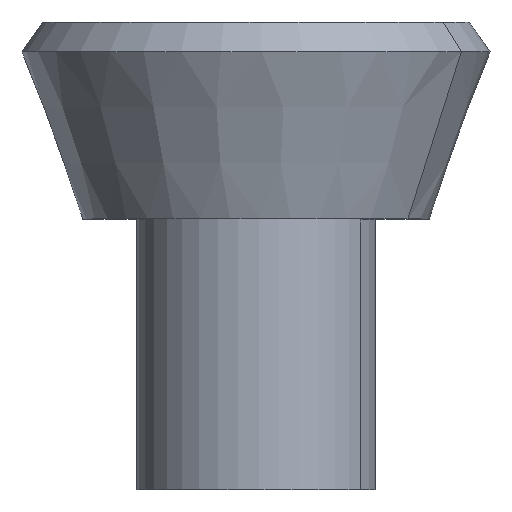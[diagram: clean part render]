
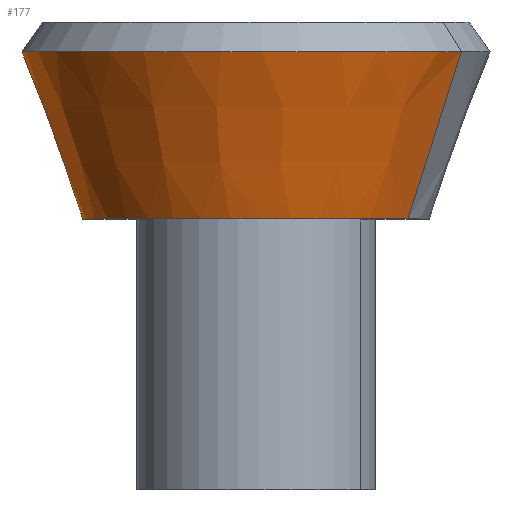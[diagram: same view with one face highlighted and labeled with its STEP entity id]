
A CAD part, top view. The second image highlights one B-rep face of the part: STEP entity #177.
In plain terms, the highlighted conical face has half-angle 20 degrees and reference radius 96 mm.
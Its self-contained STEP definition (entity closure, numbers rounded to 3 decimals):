
#114=CARTESIAN_POINT('Axis2P3D Location',(0.,0.,0.)) ;
#118=CARTESIAN_POINT('Vertex',(84.248,0.,46.025)) ;
#120=CARTESIAN_POINT('Vertex',(-84.248,0.,-46.025)) ;
#147=CARTESIAN_POINT('Axis2P3D Location',(0.,0.,0.)) ;
#152=CARTESIAN_POINT('Line Origine',(99.04,46.311,54.106)) ;
#156=CARTESIAN_POINT('Vertex',(113.832,92.621,62.187)) ;
#159=CARTESIAN_POINT('Axis2P3D Location',(0.,92.621,0.)) ;
#163=CARTESIAN_POINT('Vertex',(-113.832,92.621,-62.187)) ;
#166=CARTESIAN_POINT('Line Origine',(-99.04,46.311,-54.106)) ;
#115=DIRECTION('Axis2P3D Direction',(0.,-1.,0.)) ;
#148=DIRECTION('Axis2P3D Direction',(-0.,1.,-0.)) ;
#149=DIRECTION('Axis2P3D XDirection',(0.878,0.,0.479)) ;
#153=DIRECTION('Vector Direction',(0.3,0.94,0.164)) ;
#160=DIRECTION('Axis2P3D Direction',(0.,1.,-0.)) ;
#167=DIRECTION('Vector Direction',(-0.3,0.94,-0.164)) ;
#116=AXIS2_PLACEMENT_3D('Circle Axis2P3D',#114,#115,$) ;
#150=AXIS2_PLACEMENT_3D('Cone Axis2P3D',#147,#148,#149) ;
#161=AXIS2_PLACEMENT_3D('Circle Axis2P3D',#159,#160,$) ;
#172=ORIENTED_EDGE('',*,*,#122,.F.) ;
#173=ORIENTED_EDGE('',*,*,#158,.T.) ;
#174=ORIENTED_EDGE('',*,*,#165,.T.) ;
#175=ORIENTED_EDGE('',*,*,#170,.F.) ;
#154=VECTOR('Line Direction',#153,1.) ;
#168=VECTOR('Line Direction',#167,1.) ;
#177=ADVANCED_FACE('PartBody',(#176),#151,.T.) ;
#117=CIRCLE('generated circle',#116,96.) ;
#162=CIRCLE('generated circle',#161,129.711) ;
#151=CONICAL_SURFACE('Cone',#150,96.,0.349) ;
#122=EDGE_CURVE('',#119,#121,#117,.T.) ;
#158=EDGE_CURVE('',#119,#157,#155,.T.) ;
#165=EDGE_CURVE('',#157,#164,#162,.F.) ;
#170=EDGE_CURVE('',#121,#164,#169,.T.) ;
#171=EDGE_LOOP('',(#172,#173,#174,#175)) ;
#176=FACE_OUTER_BOUND('',#171,.T.) ;
#155=LINE('Line',#152,#154) ;
#169=LINE('Line',#166,#168) ;
#119=VERTEX_POINT('',#118) ;
#121=VERTEX_POINT('',#120) ;
#157=VERTEX_POINT('',#156) ;
#164=VERTEX_POINT('',#163) ;
